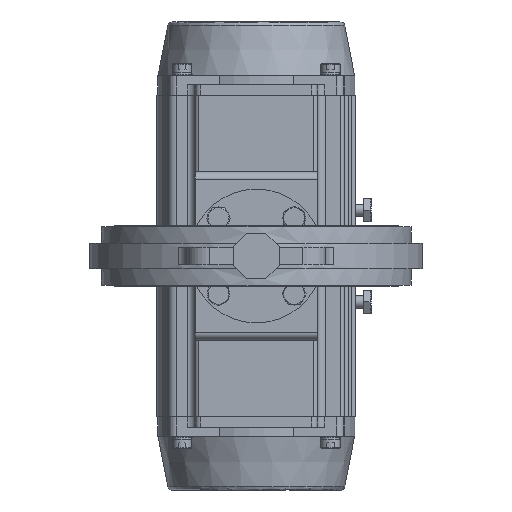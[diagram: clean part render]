
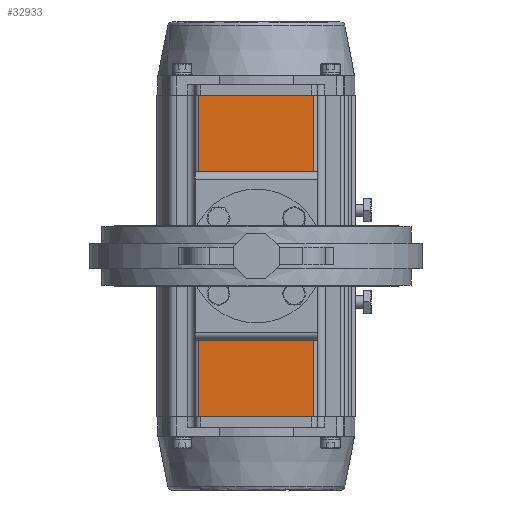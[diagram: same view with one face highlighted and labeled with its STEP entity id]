
A CAD part, front view. The second image highlights one B-rep face of the part: STEP entity #32933.
In plain terms, the highlighted planar face has unit normal (0, -1, 0).
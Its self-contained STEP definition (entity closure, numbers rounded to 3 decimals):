
#514 = AXIS2_PLACEMENT_3D ( 'NONE', #2072, #5665, #31430 ) ;
#548 = EDGE_CURVE ( 'NONE', #10843, #6283, #14286, .T. ) ;
#1159 = CARTESIAN_POINT ( 'NONE',  ( -58.336, 488., 67.836 ) ) ;
#2072 = CARTESIAN_POINT ( 'NONE',  ( 58.336, 488., 58.336 ) ) ;
#2681 = AXIS2_PLACEMENT_3D ( 'NONE', #16968, #35480, #13459 ) ;
#3197 = CARTESIAN_POINT ( 'NONE',  ( 58.336, 488., 58.336 ) ) ;
#3473 = VERTEX_POINT ( 'NONE', #24724 ) ;
#3731 = DIRECTION ( 'NONE',  ( 0., 0., -1. ) ) ;
#4062 = AXIS2_PLACEMENT_3D ( 'NONE', #40976, #8591, #19239 ) ;
#5027 = CIRCLE ( 'NONE', #25610, 51. ) ;
#5582 = AXIS2_PLACEMENT_3D ( 'NONE', #21281, #43159, #9812 ) ;
#5630 = CARTESIAN_POINT ( 'NONE',  ( 75., 488., -210. ) ) ;
#5665 = DIRECTION ( 'NONE',  ( 0., 1., 0. ) ) ;
#5773 = DIRECTION ( 'NONE',  ( 0., 1., 0. ) ) ;
#5993 = DIRECTION ( 'NONE',  ( 0., 1., 0. ) ) ;
#6133 = ORIENTED_EDGE ( 'NONE', *, *, #30281, .T. ) ;
#6283 = VERTEX_POINT ( 'NONE', #35603 ) ;
#7597 = CARTESIAN_POINT ( 'NONE',  ( -75., 488., -210. ) ) ;
#7824 = CIRCLE ( 'NONE', #2681, 9.5 ) ;
#8591 = DIRECTION ( 'NONE',  ( 0., -1., 0. ) ) ;
#8626 = VERTEX_POINT ( 'NONE', #44100 ) ;
#9643 = VECTOR ( 'NONE', #10540, 1000. ) ;
#9812 = DIRECTION ( 'NONE',  ( 0., 0., -1. ) ) ;
#10304 = CARTESIAN_POINT ( 'NONE',  ( 58.336, 488., -58.336 ) ) ;
#10540 = DIRECTION ( 'NONE',  ( 0., 0., 1. ) ) ;
#10599 = ORIENTED_EDGE ( 'NONE', *, *, #13852, .T. ) ;
#10783 = EDGE_CURVE ( 'NONE', #6283, #8626, #11056, .T. ) ;
#10843 = VERTEX_POINT ( 'NONE', #27407 ) ;
#10853 = FACE_OUTER_BOUND ( 'NONE', #46754, .T. ) ;
#10875 = VERTEX_POINT ( 'NONE', #12251 ) ;
#11056 = LINE ( 'NONE', #15492, #31817 ) ;
#11144 = CARTESIAN_POINT ( 'NONE',  ( 58.336, 488., -67.836 ) ) ;
#11357 = VERTEX_POINT ( 'NONE', #19301 ) ;
#11366 = AXIS2_PLACEMENT_3D ( 'NONE', #43843, #36423, #36741 ) ;
#11412 = FACE_BOUND ( 'NONE', #20558, .T. ) ;
#11579 = LINE ( 'NONE', #13591, #32340 ) ;
#12251 = CARTESIAN_POINT ( 'NONE',  ( 0., 488., 51. ) ) ;
#12569 = FACE_BOUND ( 'NONE', #43502, .T. ) ;
#12583 = ORIENTED_EDGE ( 'NONE', *, *, #548, .T. ) ;
#12595 = CIRCLE ( 'NONE', #44490, 9.5 ) ;
#13218 = ORIENTED_EDGE ( 'NONE', *, *, #30655, .T. ) ;
#13282 = EDGE_CURVE ( 'NONE', #47788, #29102, #29747, .T. ) ;
#13459 = DIRECTION ( 'NONE',  ( 0., 0., -1. ) ) ;
#13591 = CARTESIAN_POINT ( 'NONE',  ( -80., 488., -210. ) ) ;
#13624 = AXIS2_PLACEMENT_3D ( 'NONE', #40777, #44009, #3731 ) ;
#13723 = ORIENTED_EDGE ( 'NONE', *, *, #19148, .T. ) ;
#13852 = EDGE_CURVE ( 'NONE', #3473, #43547, #36003, .T. ) ;
#13915 = ORIENTED_EDGE ( 'NONE', *, *, #28372, .T. ) ;
#14280 = DIRECTION ( 'NONE',  ( 0., 0., -1. ) ) ;
#14286 = LINE ( 'NONE', #5630, #9643 ) ;
#14682 = EDGE_LOOP ( 'NONE', ( #24798, #10599 ) ) ;
#15328 = CIRCLE ( 'NONE', #5582, 9.5 ) ;
#15492 = CARTESIAN_POINT ( 'NONE',  ( -80., 488., 210. ) ) ;
#15612 = AXIS2_PLACEMENT_3D ( 'NONE', #10304, #5773, #24795 ) ;
#16968 = CARTESIAN_POINT ( 'NONE',  ( 58.336, 488., -58.336 ) ) ;
#17117 = EDGE_CURVE ( 'NONE', #27732, #22484, #33780, .T. ) ;
#19148 = EDGE_CURVE ( 'NONE', #11357, #10875, #30534, .T. ) ;
#19239 = DIRECTION ( 'NONE',  ( 0., 0., -1. ) ) ;
#19301 = CARTESIAN_POINT ( 'NONE',  ( 0., 488., -51. ) ) ;
#20050 = EDGE_CURVE ( 'NONE', #29102, #47788, #12595, .T. ) ;
#20182 = VERTEX_POINT ( 'NONE', #21314 ) ;
#20558 = EDGE_LOOP ( 'NONE', ( #13218, #39417 ) ) ;
#21281 = CARTESIAN_POINT ( 'NONE',  ( -58.336, 488., -58.336 ) ) ;
#21314 = CARTESIAN_POINT ( 'NONE',  ( 58.336, 488., 67.836 ) ) ;
#21839 = FACE_BOUND ( 'NONE', #35625, .T. ) ;
#21963 = ORIENTED_EDGE ( 'NONE', *, *, #20050, .T. ) ;
#22177 = PLANE ( 'NONE',  #4062 ) ;
#22259 = AXIS2_PLACEMENT_3D ( 'NONE', #47511, #43738, #14280 ) ;
#22484 = VERTEX_POINT ( 'NONE', #29075 ) ;
#23117 = VERTEX_POINT ( 'NONE', #7597 ) ;
#23671 = VERTEX_POINT ( 'NONE', #43938 ) ;
#24321 = EDGE_CURVE ( 'NONE', #43547, #3473, #15328, .T. ) ;
#24724 = CARTESIAN_POINT ( 'NONE',  ( -58.336, 488., -48.836 ) ) ;
#24795 = DIRECTION ( 'NONE',  ( 0., 0., -1. ) ) ;
#24798 = ORIENTED_EDGE ( 'NONE', *, *, #24321, .T. ) ;
#25610 = AXIS2_PLACEMENT_3D ( 'NONE', #28059, #5993, #27752 ) ;
#27407 = CARTESIAN_POINT ( 'NONE',  ( 75., 488., -210. ) ) ;
#27606 = DIRECTION ( 'NONE',  ( 0., 1., 0. ) ) ;
#27681 = ORIENTED_EDGE ( 'NONE', *, *, #43889, .T. ) ;
#27732 = VERTEX_POINT ( 'NONE', #11144 ) ;
#27752 = DIRECTION ( 'NONE',  ( 0., 0., -1. ) ) ;
#28059 = CARTESIAN_POINT ( 'NONE',  ( 0., 488., 0. ) ) ;
#28372 = EDGE_CURVE ( 'NONE', #23117, #10843, #11579, .T. ) ;
#29075 = CARTESIAN_POINT ( 'NONE',  ( 58.336, 488., -48.836 ) ) ;
#29102 = VERTEX_POINT ( 'NONE', #39399 ) ;
#29747 = CIRCLE ( 'NONE', #22259, 9.5 ) ;
#30281 = EDGE_CURVE ( 'NONE', #22484, #27732, #7824, .T. ) ;
#30419 = FACE_BOUND ( 'NONE', #31594, .T. ) ;
#30534 = CIRCLE ( 'NONE', #11366, 51. ) ;
#30655 = EDGE_CURVE ( 'NONE', #23671, #20182, #43434, .T. ) ;
#31381 = CIRCLE ( 'NONE', #37754, 9.5 ) ;
#31430 = DIRECTION ( 'NONE',  ( 0., 0., -1. ) ) ;
#31594 = EDGE_LOOP ( 'NONE', ( #13723, #27681 ) ) ;
#31808 = CARTESIAN_POINT ( 'NONE',  ( -75., 488., -210. ) ) ;
#31817 = VECTOR ( 'NONE', #43831, 1000. ) ;
#32340 = VECTOR ( 'NONE', #35307, 1000. ) ;
#32933 = ADVANCED_FACE ( 'NONE', ( #21839, #40257, #12569, #11412, #30419, #10853 ), #22177, .T. ) ;
#33780 = CIRCLE ( 'NONE', #15612, 9.5 ) ;
#34490 = DIRECTION ( 'NONE',  ( 0., 0., -1. ) ) ;
#35307 = DIRECTION ( 'NONE',  ( 1., 0., 0. ) ) ;
#35473 = DIRECTION ( 'NONE',  ( 0., 0., -1. ) ) ;
#35480 = DIRECTION ( 'NONE',  ( 0., 1., 0. ) ) ;
#35603 = CARTESIAN_POINT ( 'NONE',  ( 75., 488., 210. ) ) ;
#35625 = EDGE_LOOP ( 'NONE', ( #21963, #38143 ) ) ;
#36003 = CIRCLE ( 'NONE', #13624, 9.5 ) ;
#36423 = DIRECTION ( 'NONE',  ( 0., 1., 0. ) ) ;
#36706 = DIRECTION ( 'NONE',  ( 0., 0., -1. ) ) ;
#36741 = DIRECTION ( 'NONE',  ( 0., 0., -1. ) ) ;
#37492 = ORIENTED_EDGE ( 'NONE', *, *, #10783, .T. ) ;
#37754 = AXIS2_PLACEMENT_3D ( 'NONE', #3197, #40742, #36706 ) ;
#37786 = EDGE_CURVE ( 'NONE', #8626, #23117, #43855, .T. ) ;
#38143 = ORIENTED_EDGE ( 'NONE', *, *, #13282, .T. ) ;
#39399 = CARTESIAN_POINT ( 'NONE',  ( -58.336, 488., 48.836 ) ) ;
#39417 = ORIENTED_EDGE ( 'NONE', *, *, #39994, .T. ) ;
#39994 = EDGE_CURVE ( 'NONE', #20182, #23671, #31381, .T. ) ;
#40257 = FACE_BOUND ( 'NONE', #14682, .T. ) ;
#40742 = DIRECTION ( 'NONE',  ( 0., 1., 0. ) ) ;
#40777 = CARTESIAN_POINT ( 'NONE',  ( -58.336, 488., -58.336 ) ) ;
#40976 = CARTESIAN_POINT ( 'NONE',  ( -80., 488., -210. ) ) ;
#42552 = CARTESIAN_POINT ( 'NONE',  ( -58.336, 488., 58.336 ) ) ;
#42688 = VECTOR ( 'NONE', #35473, 1000. ) ;
#43159 = DIRECTION ( 'NONE',  ( 0., 1., 0. ) ) ;
#43434 = CIRCLE ( 'NONE', #514, 9.5 ) ;
#43502 = EDGE_LOOP ( 'NONE', ( #47576, #6133 ) ) ;
#43547 = VERTEX_POINT ( 'NONE', #45653 ) ;
#43738 = DIRECTION ( 'NONE',  ( 0., 1., 0. ) ) ;
#43831 = DIRECTION ( 'NONE',  ( -1., 0., 0. ) ) ;
#43843 = CARTESIAN_POINT ( 'NONE',  ( 0., 488., 0. ) ) ;
#43855 = LINE ( 'NONE', #31808, #42688 ) ;
#43889 = EDGE_CURVE ( 'NONE', #10875, #11357, #5027, .T. ) ;
#43938 = CARTESIAN_POINT ( 'NONE',  ( 58.336, 488., 48.836 ) ) ;
#44009 = DIRECTION ( 'NONE',  ( 0., 1., 0. ) ) ;
#44100 = CARTESIAN_POINT ( 'NONE',  ( -75., 488., 210. ) ) ;
#44490 = AXIS2_PLACEMENT_3D ( 'NONE', #42552, #27606, #34490 ) ;
#45653 = CARTESIAN_POINT ( 'NONE',  ( -58.336, 488., -67.836 ) ) ;
#46547 = ORIENTED_EDGE ( 'NONE', *, *, #37786, .T. ) ;
#46754 = EDGE_LOOP ( 'NONE', ( #13915, #12583, #37492, #46547 ) ) ;
#47511 = CARTESIAN_POINT ( 'NONE',  ( -58.336, 488., 58.336 ) ) ;
#47576 = ORIENTED_EDGE ( 'NONE', *, *, #17117, .T. ) ;
#47788 = VERTEX_POINT ( 'NONE', #1159 ) ;
